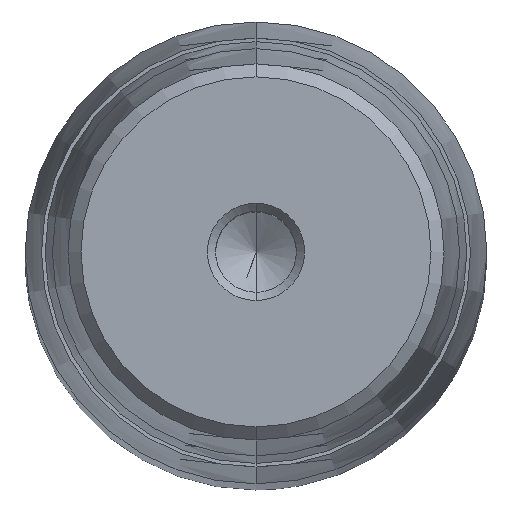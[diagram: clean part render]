
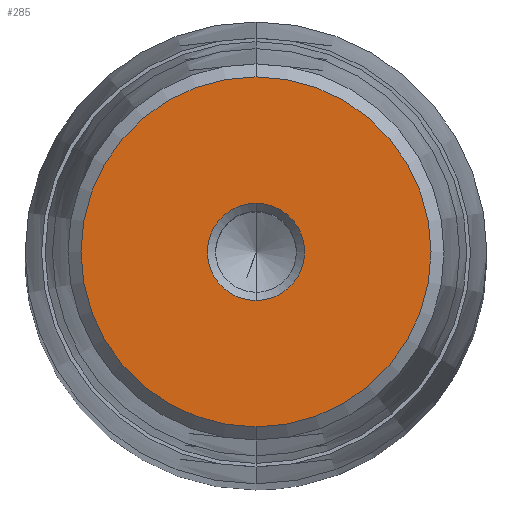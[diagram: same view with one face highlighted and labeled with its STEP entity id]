
A CAD part, top view. The second image highlights one B-rep face of the part: STEP entity #285.
In plain terms, the highlighted planar face has unit normal (0, 0, 1).
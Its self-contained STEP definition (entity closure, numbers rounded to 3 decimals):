
#164=CARTESIAN_POINT('Axis2P3D Location',(0.,0.,48.)) ;
#168=CARTESIAN_POINT('Vertex',(4.,0.,48.)) ;
#170=CARTESIAN_POINT('Vertex',(0.,-4.,48.)) ;
#173=CARTESIAN_POINT('Axis2P3D Location',(0.,0.,48.)) ;
#177=CARTESIAN_POINT('Vertex',(0.,4.,48.)) ;
#228=CARTESIAN_POINT('Axis2P3D Location',(0.,4.,48.)) ;
#233=CARTESIAN_POINT('Axis2P3D Location',(0.,0.,48.)) ;
#237=CARTESIAN_POINT('Vertex',(0.,14.4,48.)) ;
#239=CARTESIAN_POINT('Vertex',(14.4,0.,48.)) ;
#242=CARTESIAN_POINT('Axis2P3D Location',(0.,0.,48.)) ;
#246=CARTESIAN_POINT('Vertex',(-14.4,0.,48.)) ;
#249=CARTESIAN_POINT('Axis2P3D Location',(0.,0.,48.)) ;
#253=CARTESIAN_POINT('Vertex',(0.,-14.4,48.)) ;
#256=CARTESIAN_POINT('Axis2P3D Location',(0.,0.,48.)) ;
#267=CARTESIAN_POINT('Axis2P3D Location',(0.,0.,48.)) ;
#271=CARTESIAN_POINT('Vertex',(-4.,0.,48.)) ;
#274=CARTESIAN_POINT('Axis2P3D Location',(0.,0.,48.)) ;
#165=DIRECTION('Axis2P3D Direction',(-0.,0.,1.)) ;
#174=DIRECTION('Axis2P3D Direction',(-0.,0.,1.)) ;
#229=DIRECTION('Axis2P3D Direction',(0.,0.,-1.)) ;
#230=DIRECTION('Axis2P3D XDirection',(0.,1.,0.)) ;
#234=DIRECTION('Axis2P3D Direction',(0.,0.,-1.)) ;
#243=DIRECTION('Axis2P3D Direction',(0.,0.,-1.)) ;
#250=DIRECTION('Axis2P3D Direction',(0.,0.,-1.)) ;
#257=DIRECTION('Axis2P3D Direction',(0.,0.,-1.)) ;
#268=DIRECTION('Axis2P3D Direction',(0.,0.,-1.)) ;
#275=DIRECTION('Axis2P3D Direction',(0.,0.,-1.)) ;
#166=AXIS2_PLACEMENT_3D('Circle Axis2P3D',#164,#165,$) ;
#175=AXIS2_PLACEMENT_3D('Circle Axis2P3D',#173,#174,$) ;
#231=AXIS2_PLACEMENT_3D('Plane Axis2P3D',#228,#229,#230) ;
#235=AXIS2_PLACEMENT_3D('Circle Axis2P3D',#233,#234,$) ;
#244=AXIS2_PLACEMENT_3D('Circle Axis2P3D',#242,#243,$) ;
#251=AXIS2_PLACEMENT_3D('Circle Axis2P3D',#249,#250,$) ;
#258=AXIS2_PLACEMENT_3D('Circle Axis2P3D',#256,#257,$) ;
#269=AXIS2_PLACEMENT_3D('Circle Axis2P3D',#267,#268,$) ;
#276=AXIS2_PLACEMENT_3D('Circle Axis2P3D',#274,#275,$) ;
#262=ORIENTED_EDGE('',*,*,#241,.F.) ;
#263=ORIENTED_EDGE('',*,*,#248,.F.) ;
#264=ORIENTED_EDGE('',*,*,#255,.F.) ;
#265=ORIENTED_EDGE('',*,*,#260,.F.) ;
#280=ORIENTED_EDGE('',*,*,#172,.T.) ;
#281=ORIENTED_EDGE('',*,*,#273,.T.) ;
#282=ORIENTED_EDGE('',*,*,#278,.T.) ;
#283=ORIENTED_EDGE('',*,*,#179,.T.) ;
#284=FACE_BOUND('',#279,.T.) ;
#285=ADVANCED_FACE('722-38x315x348',(#266,#284),#232,.F.) ;
#167=CIRCLE('generated circle',#166,4.) ;
#176=CIRCLE('generated circle',#175,4.) ;
#236=CIRCLE('generated circle',#235,14.4) ;
#245=CIRCLE('generated circle',#244,14.4) ;
#252=CIRCLE('generated circle',#251,14.4) ;
#259=CIRCLE('generated circle',#258,14.4) ;
#270=CIRCLE('generated circle',#269,4.) ;
#277=CIRCLE('generated circle',#276,4.) ;
#172=EDGE_CURVE('',#169,#171,#167,.F.) ;
#179=EDGE_CURVE('',#178,#169,#176,.F.) ;
#241=EDGE_CURVE('',#238,#240,#236,.T.) ;
#248=EDGE_CURVE('',#247,#238,#245,.T.) ;
#255=EDGE_CURVE('',#254,#247,#252,.T.) ;
#260=EDGE_CURVE('',#240,#254,#259,.T.) ;
#273=EDGE_CURVE('',#171,#272,#270,.T.) ;
#278=EDGE_CURVE('',#272,#178,#277,.T.) ;
#261=EDGE_LOOP('',(#262,#263,#264,#265)) ;
#279=EDGE_LOOP('',(#280,#281,#282,#283)) ;
#266=FACE_OUTER_BOUND('',#261,.T.) ;
#232=PLANE('Plane',#231) ;
#169=VERTEX_POINT('',#168) ;
#171=VERTEX_POINT('',#170) ;
#178=VERTEX_POINT('',#177) ;
#238=VERTEX_POINT('',#237) ;
#240=VERTEX_POINT('',#239) ;
#247=VERTEX_POINT('',#246) ;
#254=VERTEX_POINT('',#253) ;
#272=VERTEX_POINT('',#271) ;
